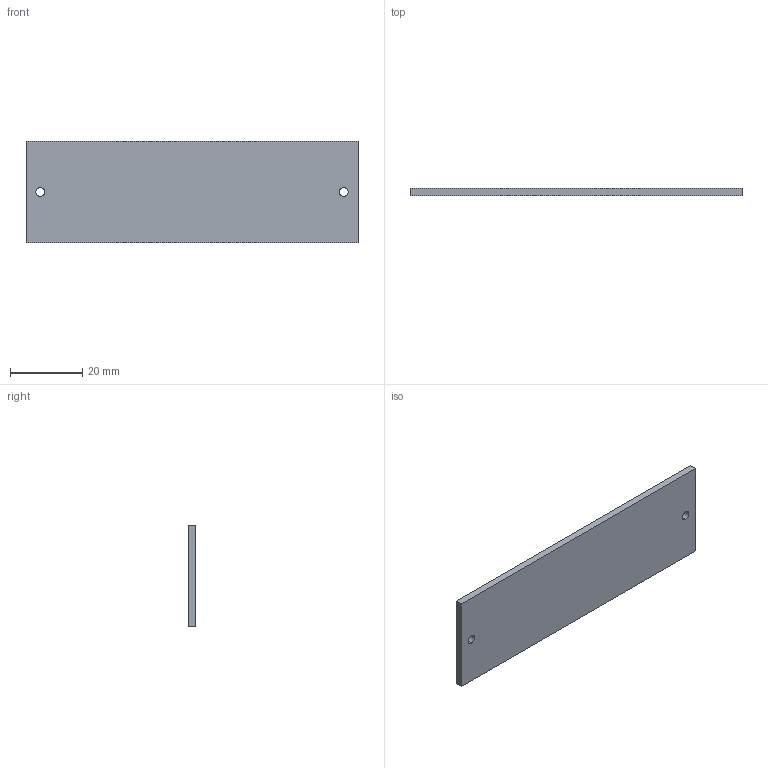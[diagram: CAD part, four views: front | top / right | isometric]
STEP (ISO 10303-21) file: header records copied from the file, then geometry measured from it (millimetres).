
FILE_DESCRIPTION (( 'STEP AP214' ), '1' );
FILE_NAME ('LBRX-00-080-6-DIFFUSER.STEP', '2021-11-05T05:49:59', ( '' ), ( '' ), 'SwSTEP 2.0', 'SolidWorks 2021', '' );
FILE_SCHEMA (( 'AUTOMOTIVE_DESIGN' ));
Length unit declared in the file: millimetre
Products named in the file (1): LBRX-00-080-6-DIFFUSER
Bounding box: 92 x 2 x 28 mm (x, y, z)
Volume: 5132.4 mm3; surface area: 5643.8 mm2
Topology: 1 solids, 1 shells, 10 faces, 24 edges, 16 vertices
Faces by surface type: plane 6, cylinder 4
Entity records: 338 total; most frequent: DIRECTION 54, CARTESIAN_POINT 51, ORIENTED_EDGE 48, EDGE_CURVE 24, AXIS2_PLACEMENT_3D 19, LINE 16, VECTOR 16, VERTEX_POINT 16
